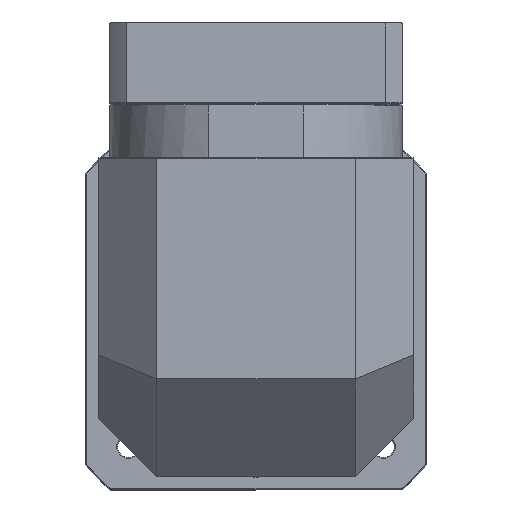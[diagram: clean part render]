
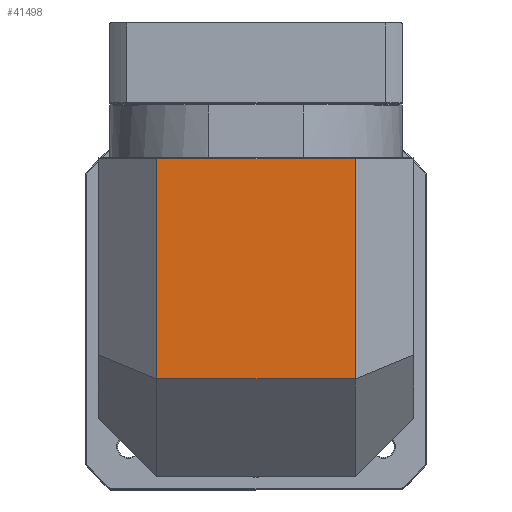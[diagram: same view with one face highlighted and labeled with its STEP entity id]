
A CAD part, top view. The second image highlights one B-rep face of the part: STEP entity #41498.
In plain terms, the highlighted planar face has unit normal (0, 0, 1).
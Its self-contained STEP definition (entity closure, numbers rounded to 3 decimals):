
#67 = CARTESIAN_POINT ( 'NONE',  ( -82.461, 37.589, 32.938 ) ) ;
#1562 = VECTOR ( 'NONE', #46980, 1000. ) ;
#5012 = CARTESIAN_POINT ( 'NONE',  ( -82.461, 69.339, 32.938 ) ) ;
#5137 = EDGE_CURVE ( 'NONE', #123882, #52794, #92633, .T. ) ;
#8822 = CARTESIAN_POINT ( 'NONE',  ( 19.539, 151.089, 32.938 ) ) ;
#9723 = DIRECTION ( 'NONE',  ( 1., 0., 0. ) ) ;
#14206 = CARTESIAN_POINT ( 'NONE',  ( -112.461, 150.589, 32.938 ) ) ;
#18146 = ORIENTED_EDGE ( 'NONE', *, *, #77206, .T. ) ;
#19531 = PLANE ( 'NONE',  #91538 ) ;
#24776 = CARTESIAN_POINT ( 'NONE',  ( -82.461, 150.589, 32.938 ) ) ;
#29878 = LINE ( 'NONE', #88614, #1562 ) ;
#32435 = EDGE_LOOP ( 'NONE', ( #114859, #18146, #121481, #73751 ) ) ;
#40546 = CARTESIAN_POINT ( 'NONE',  ( -112.461, 151.089, 32.938 ) ) ;
#41498 = ADVANCED_FACE ( 'NONE', ( #55746 ), #19531, .F. ) ;
#46648 = LINE ( 'NONE', #14206, #55068 ) ;
#46980 = DIRECTION ( 'NONE',  ( 1., 0., 0. ) ) ;
#52794 = VERTEX_POINT ( 'NONE', #24776 ) ;
#55068 = VECTOR ( 'NONE', #131152, 1000. ) ;
#55382 = VECTOR ( 'NONE', #84072, 1000. ) ;
#55746 = FACE_OUTER_BOUND ( 'NONE', #32435, .T. ) ;
#67970 = CARTESIAN_POINT ( 'NONE',  ( 19.539, 150.589, 32.938 ) ) ;
#73023 = DIRECTION ( 'NONE',  ( 0., 0., -1. ) ) ;
#73751 = ORIENTED_EDGE ( 'NONE', *, *, #132286, .T. ) ;
#77206 = EDGE_CURVE ( 'NONE', #125239, #52794, #46648, .T. ) ;
#84072 = DIRECTION ( 'NONE',  ( 0., 1., 0. ) ) ;
#84153 = CARTESIAN_POINT ( 'NONE',  ( 19.539, 37.589, 32.938 ) ) ;
#88614 = CARTESIAN_POINT ( 'NONE',  ( -112.461, 37.589, 32.938 ) ) ;
#91538 = AXIS2_PLACEMENT_3D ( 'NONE', #40546, #73023, #9723 ) ;
#92633 = LINE ( 'NONE', #5012, #124219 ) ;
#111320 = DIRECTION ( 'NONE',  ( 0., 1., 0. ) ) ;
#114859 = ORIENTED_EDGE ( 'NONE', *, *, #135367, .T. ) ;
#116716 = LINE ( 'NONE', #8822, #55382 ) ;
#121481 = ORIENTED_EDGE ( 'NONE', *, *, #5137, .F. ) ;
#123882 = VERTEX_POINT ( 'NONE', #67 ) ;
#124219 = VECTOR ( 'NONE', #111320, 1000. ) ;
#125239 = VERTEX_POINT ( 'NONE', #67970 ) ;
#131152 = DIRECTION ( 'NONE',  ( -1., 0., 0. ) ) ;
#131243 = VERTEX_POINT ( 'NONE', #84153 ) ;
#132286 = EDGE_CURVE ( 'NONE', #123882, #131243, #29878, .T. ) ;
#135367 = EDGE_CURVE ( 'NONE', #131243, #125239, #116716, .T. ) ;
